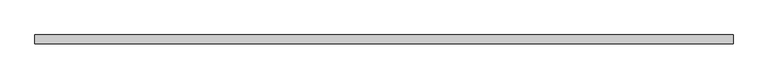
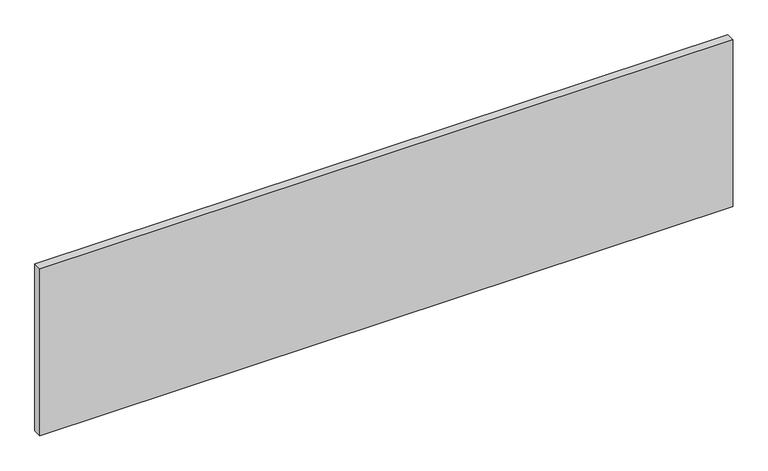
"""IFC4 building model written with IfcOpenShell, lengths in millimetres: plate geometry, Lod 200 Regolare 800 Horizontal : Azuro."""

import ifcopenshell
import ifcopenshell.guid

model = None  # the IFC model being written
_history = None  # IfcOwnerHistory: only IFC2X3 demands one
_inside = {}  # id of a spatial element -> (the spatial element, [elements in it])
_under = {}  # id of a project, library or spatial element -> (it, [spatial elements below it])
_declared = {}  # id of a project -> (the project, [libraries it declares])
_typed = {}  # id of a type object -> (the type object, [elements of that type])
_made_of = {}  # id of a material, layer set ... -> (it, [elements and type objects made of it])


def new_model(schema):
    """Start an empty IFC model of exactly this schema.

    Asked for "IFC4X3", IfcOpenShell would pick the latest addendum, in which some entities
    have other attributes; the version numbers below select the first issue.
    IFC2X3 requires an IfcOwnerHistory on every rooted entity: one is made here for all.
    """
    global model, _history
    if schema == "IFC4X3":
        model = ifcopenshell.file(schema_version=(4, 3, 0, 0))
    else:
        model = ifcopenshell.file(schema=schema)
    _inside.clear()
    _under.clear()
    _declared.clear()
    _typed.clear()
    _made_of.clear()
    _history = None
    if model.schema == "IFC2X3":
        org = make("IfcOrganization", Name="unknown")
        user = make(
            "IfcPersonAndOrganization",
            ThePerson=make("IfcPerson", FamilyName="unknown"),
            TheOrganization=org,
        )
        app = make(
            "IfcApplication",
            ApplicationDeveloper=org,
            Version="unknown",
            ApplicationFullName="unknown",
            ApplicationIdentifier="unknown",
        )
        _history = make(
            "IfcOwnerHistory",
            OwningUser=user,
            OwningApplication=app,
            ChangeAction="ADDED",
            CreationDate=0,
        )
    return model


def make(cls, **values):
    """One entity of the class cls with the attributes given. An attribute that is None is left unset."""
    return model.create_entity(
        cls, **{name: value for name, value in values.items() if value is not None}
    )


def rooted(cls, **values):
    """An entity with a GlobalId (a new one), such as an element, a storey or a relation."""
    return make(cls, GlobalId=ifcopenshell.guid.new(), OwnerHistory=_history, **values)


def si_unit(unit_type, name, prefix=None):
    """IfcSIUnit, for example si_unit("LENGTHUNIT", "METRE", prefix="MILLI")."""
    return make("IfcSIUnit", UnitType=unit_type, Prefix=prefix, Name=name)


def assignment(units):
    """IfcUnitAssignment: the units of a project."""
    return None if units is None else make("IfcUnitAssignment", Units=units)


def point(xyz):
    """IfcCartesianPoint."""
    return None if xyz is None else make("IfcCartesianPoint", Coordinates=xyz)


def direction(xyz):
    """IfcDirection."""
    return None if xyz is None else make("IfcDirection", DirectionRatios=xyz)


def frame(location, z_axis=None, x_axis=None):
    """IfcAxis2Placement3D, a coordinate frame: its origin and axes. An axis left out is left unset."""
    return make(
        "IfcAxis2Placement3D",
        Location=point(location),
        Axis=direction(z_axis),
        RefDirection=direction(x_axis),
    )


def origin():
    """The frame at (0, 0, 0) with its axes left unset."""
    return frame((0.0, 0.0, 0.0))


def origin_with_axes():
    """The frame at (0, 0, 0) with the z axis (0, 0, 1) and the x axis (1, 0, 0) written out."""
    return frame((0.0, 0.0, 0.0), z_axis=(0.0, 0.0, 1.0), x_axis=(1.0, 0.0, 0.0))


def place(relative_to, where):
    """IfcLocalPlacement: puts the frame where relative to a parent placement (None: the world)."""
    return make(
        "IfcLocalPlacement", PlacementRelTo=relative_to, RelativePlacement=where
    )


def context(
    kind, dimensions, precision=None, world=None, true_north=None, identifier=None
):
    """IfcGeometricRepresentationContext, for example the 3D "Model" context."""
    return make(
        "IfcGeometricRepresentationContext",
        ContextIdentifier=identifier,
        ContextType=kind,
        CoordinateSpaceDimension=dimensions,
        Precision=precision,
        WorldCoordinateSystem=world,
        TrueNorth=true_north,
    )


def project(units=None, contexts=None):
    """IfcProject with its units and contexts."""
    return rooted(
        "IfcProject",
        Name="project",
        RepresentationContexts=contexts,
        UnitsInContext=assignment(units),
    )


def spatial(cls, under=None, at=None, **own):
    """A site, building, storey or space (cls), placed at a placement, below another one or the project."""
    s = rooted(cls, ObjectPlacement=at, **own)
    if under is not None:
        _under.setdefault(under.id(), (under, []))[1].append(s)
    return s


def polyline(points):
    """IfcPolyline through the points."""
    return make("IfcPolyline", Points=[point(p) for p in points])


def outline(outer, holes=None, kind="AREA"):
    """IfcArbitraryClosedProfileDef: a profile drawn as a closed curve; with holes, ...WithVoids."""
    if holes is None:
        return make("IfcArbitraryClosedProfileDef", ProfileType=kind, OuterCurve=outer)
    return make(
        "IfcArbitraryProfileDefWithVoids",
        ProfileType=kind,
        OuterCurve=outer,
        InnerCurves=holes,
    )


def extrude(swept, where, along, depth):
    """IfcExtrudedAreaSolid: the profile swept, set in the frame where, extruded along a direction by depth."""
    return make(
        "IfcExtrudedAreaSolid",
        SweptArea=swept,
        Position=where,
        ExtrudedDirection=direction(along),
        Depth=depth,
    )


def shape(context_of_items, identifier, shape_type, items):
    """IfcShapeRepresentation: the items that make up one representation, for example the "Body"."""
    return make(
        "IfcShapeRepresentation",
        ContextOfItems=context_of_items,
        RepresentationIdentifier=identifier,
        RepresentationType=shape_type,
        Items=items,
    )


def source(mapping_origin, context_of_items, identifier, shape_type, items):
    """IfcRepresentationMap: a shape defined once, which mapped items show again and again."""
    return make(
        "IfcRepresentationMap",
        MappingOrigin=mapping_origin,
        MappedRepresentation=shape(context_of_items, identifier, shape_type, items),
    )


def transform(
    local_origin,
    x_axis=None,
    y_axis=None,
    z_axis=None,
    scale=None,
    scale2=None,
    scale3=None,
    uniform=True,
):
    """IfcCartesianTransformationOperator3D, or its non-uniform kind. x_axis, y_axis, z_axis: its Axis1, 2, 3."""
    if uniform:
        return make(
            "IfcCartesianTransformationOperator3D",
            Axis1=direction(x_axis),
            Axis2=direction(y_axis),
            LocalOrigin=point(local_origin),
            Scale=scale,
            Axis3=direction(z_axis),
        )
    return make(
        "IfcCartesianTransformationOperator3DnonUniform",
        Axis1=direction(x_axis),
        Axis2=direction(y_axis),
        LocalOrigin=point(local_origin),
        Scale=scale,
        Axis3=direction(z_axis),
        Scale2=scale2,
        Scale3=scale3,
    )


def mapped(mapping_source, mapping_target):
    """IfcMappedItem: shows the shape of a source again, moved by a transform."""
    return make(
        "IfcMappedItem", MappingSource=mapping_source, MappingTarget=mapping_target
    )


def made_of(thing, what):
    """Note that an element or type object is made of a material, layer set ...; save() writes the relation."""
    if what is not None:
        _made_of.setdefault(what.id(), (what, []))[1].append(thing)
    return thing


def element(
    cls,
    number,
    at=None,
    inside=None,
    cuts=None,
    type_object=None,
    material=None,
    context=None,
    identifier="Body",
    shape_type=None,
    held_by="IfcProductDefinitionShape",
    body=None,
    shapes=None,
    **own,
):
    """One element of the class cls, such as IfcWall. Its Tag is "e" and its number.

    at: its placement. inside: the storey or other place that contains it. cuts: it is an
    opening in that element (IfcRelVoidsElement). A single representation is given by context,
    identifier, shape_type and body (its items); several are given by shapes. held_by: the class
    of the entity that holds the representations. save() writes the other relations.
    """
    e = rooted(cls, Tag="e%d" % number, ObjectPlacement=at, **own)
    if body is not None:
        shapes = [shape(context, identifier, shape_type, body)]
    if shapes is not None:
        e.Representation = make(held_by, Representations=shapes)
    if inside is not None:
        _inside.setdefault(inside.id(), (inside, []))[1].append(e)
    if cuts is not None:
        rooted(
            "IfcRelVoidsElement", RelatingBuildingElement=cuts, RelatedOpeningElement=e
        )
    if type_object is not None:
        _typed.setdefault(type_object.id(), (type_object, []))[1].append(e)
    return made_of(e, material)


def aggregate(whole, parts):
    """IfcRelAggregates: a whole, such as a stair, and the parts it consists of."""
    return rooted("IfcRelAggregates", RelatingObject=whole, RelatedObjects=parts)


def save(model, path):
    """Write the relations noted so far, then the file.

    IfcRelAggregates (storeys below a building ...), IfcRelContainedInSpatialStructure (elements
    in a storey), IfcRelDefinesByType, IfcRelAssociatesMaterial and IfcRelDeclares: one each for
    every whole, place, type object, material and project.
    """
    for whole, parts in _under.values():
        aggregate(whole, parts)
    for where, things in _inside.values():
        rooted(
            "IfcRelContainedInSpatialStructure",
            RelatedElements=things,
            RelatingStructure=where,
        )
    for kind, things in _typed.values():
        rooted("IfcRelDefinesByType", RelatedObjects=things, RelatingType=kind)
    for what, things in _made_of.values():
        rooted("IfcRelAssociatesMaterial", RelatedObjects=things, RelatingMaterial=what)
    for by, libraries in _declared.values():
        rooted("IfcRelDeclares", RelatingContext=by, RelatedDefinitions=libraries)
    model.write(path)


def plate_625db6d0(model_context):
    return source(origin(), model_context, "Body", "SweptSolid", [
        extrude(outline(polyline([(1572.5, -40.0), (-1572.5, -40.0), (-1572.5, 0.0), (1572.5, 0.0), (1572.5, -40.0)])), origin_with_axes(), (0.0, 0.0, 1.0), 800.0),
    ])


if __name__ == "__main__":
    model = new_model("IFC4")
    model_context = context("Model", 3, world=origin())
    ifc_project = project(units=[si_unit("LENGTHUNIT", "METRE", prefix="MILLI")], contexts=[model_context])
    site = spatial("IfcSite", under=ifc_project)
    building = spatial("IfcBuilding", under=site)
    placement = place(None, origin())
    plate_shape = plate_625db6d0(model_context)
    element("IfcPlate", 1, ObjectType="Lod 200 Regolare 800 Horizontal : Azuro", at=placement, inside=building, context=model_context, shape_type="MappedRepresentation", body=[
        mapped(plate_shape, transform((0.0, 0.0, 0.0), x_axis=(1.0, 0.0, 0.0), y_axis=(0.0, 1.0, 0.0), z_axis=(0.0, 0.0, 1.0))),
    ])
    save(model, "model.ifc")
